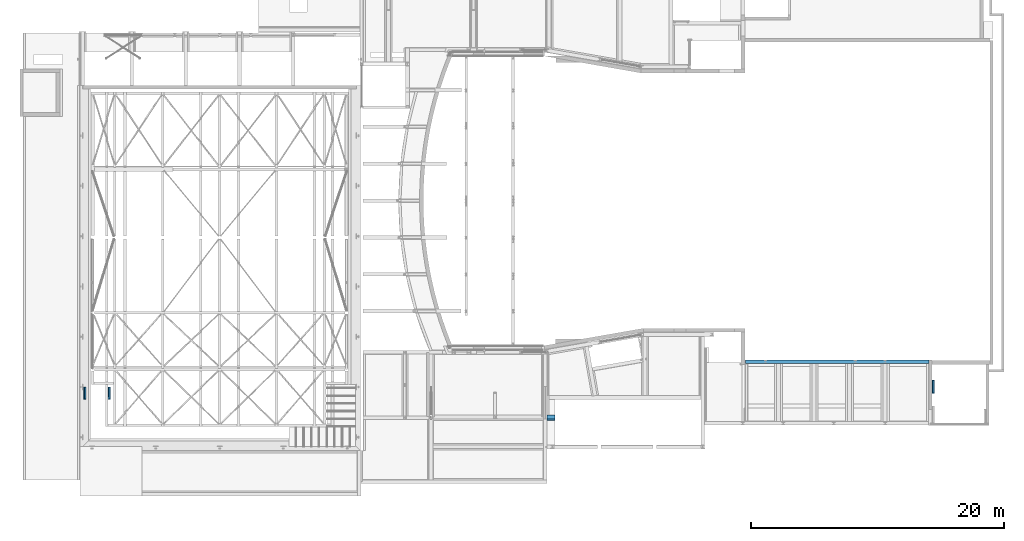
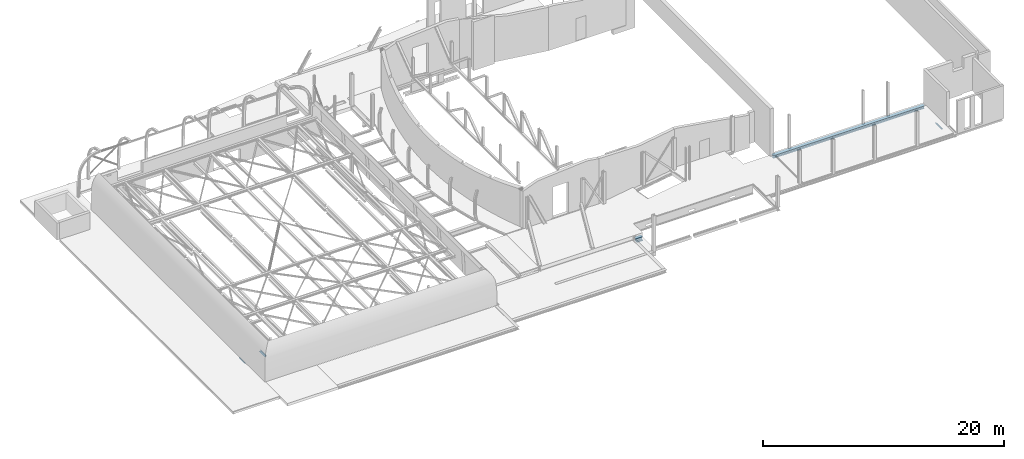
# One storey, part 27 of 38: 5 beams.
"""IFC2X3 building model written with IfcOpenShell, lengths in millimetres."""

from ifc_helpers import new_model, entity, si_unit, converted_unit, derived_unit, direction, frame, frame_2d, origin, place, context, subcontext, project, spatial, polyline, circle_curve, parameter, trimmed, segment, composite_curve, rectangle, outline, extrude, source, transform, mapped, material, material_list, type_object, type_shapes, element, save


model = new_model("IFC2X3")

# Units and contexts
model_context = context("Model", 3, precision=0.01, world=origin(), true_north=direction((6.12303176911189e-17, 1.0)))
body_context = subcontext(model_context, "Body", "Model", "MODEL_VIEW")
ifc_project = project(units=[si_unit("LENGTHUNIT", "METRE", prefix="MILLI"), si_unit("AREAUNIT", "SQUARE_METRE", prefix="MILLI"), si_unit("VOLUMEUNIT", "CUBIC_METRE"), converted_unit("PLANEANGLEUNIT", "DEGREE", entity("IfcRatioMeasure", 0.0174532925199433), si_unit("PLANEANGLEUNIT", "RADIAN"), dimensions=[0, 0, 0, 0, 0, 0, 0]), si_unit("MASSUNIT", "GRAM", prefix="KILO"), derived_unit("MASSDENSITYUNIT", [(si_unit("MASSUNIT", "GRAM", prefix="KILO"), 1), (si_unit("LENGTHUNIT", "METRE"), -3)]), derived_unit("MOMENTOFINERTIAUNIT", [(si_unit("LENGTHUNIT", "METRE"), 4)]), si_unit("TIMEUNIT", "SECOND"), si_unit("FREQUENCYUNIT", "HERTZ"), si_unit("THERMODYNAMICTEMPERATUREUNIT", "DEGREE_CELSIUS"), derived_unit("THERMALTRANSMITTANCEUNIT", [(si_unit("MASSUNIT", "GRAM", prefix="KILO"), 1), (si_unit("THERMODYNAMICTEMPERATUREUNIT", "KELVIN"), -1), (si_unit("TIMEUNIT", "SECOND"), -3)]), derived_unit("VOLUMETRICFLOWRATEUNIT", [(si_unit("LENGTHUNIT", "METRE"), 3), (si_unit("TIMEUNIT", "SECOND"), -1)]), si_unit("ELECTRICCURRENTUNIT", "AMPERE"), si_unit("ELECTRICVOLTAGEUNIT", "VOLT"), si_unit("POWERUNIT", "WATT"), si_unit("FORCEUNIT", "NEWTON", prefix="KILO"), si_unit("ILLUMINANCEUNIT", "LUX"), si_unit("LUMINOUSFLUXUNIT", "LUMEN"), si_unit("LUMINOUSINTENSITYUNIT", "CANDELA"), derived_unit("USERDEFINED", [(si_unit("MASSUNIT", "GRAM", prefix="KILO"), -1), (si_unit("LENGTHUNIT", "METRE"), -2), (si_unit("TIMEUNIT", "SECOND"), 3), (si_unit("LUMINOUSFLUXUNIT", "LUMEN"), 1)]), derived_unit("LINEARVELOCITYUNIT", [(si_unit("LENGTHUNIT", "METRE"), 1), (si_unit("TIMEUNIT", "SECOND"), -1)]), si_unit("PRESSUREUNIT", "PASCAL"), derived_unit("USERDEFINED", [(si_unit("LENGTHUNIT", "METRE"), -2), (si_unit("MASSUNIT", "GRAM", prefix="KILO"), 1), (si_unit("TIMEUNIT", "SECOND"), -2)]), derived_unit("LINEARFORCEUNIT", [(si_unit("MASSUNIT", "GRAM", prefix="KILO"), 1), (si_unit("LENGTHUNIT", "METRE"), 1), (si_unit("TIMEUNIT", "SECOND"), -2), (si_unit("LENGTHUNIT", "METRE"), -1)]), derived_unit("PLANARFORCEUNIT", [(si_unit("MASSUNIT", "GRAM", prefix="KILO"), 1), (si_unit("LENGTHUNIT", "METRE"), 1), (si_unit("TIMEUNIT", "SECOND"), -2), (si_unit("LENGTHUNIT", "METRE"), -2)])], contexts=[model_context])

# Site, building, storey
site_placement = place(None, origin())
site = spatial("IfcSite", under=ifc_project, at=site_placement, Name="Theater aan de Parade", CompositionType="ELEMENT")
building_placement = place(site_placement, origin())
building = spatial("IfcBuilding", under=site, at=building_placement, Name="Theater aan de Parade", CompositionType="ELEMENT")
storey_placement = place(building_placement, frame((0.0, 0.0, 12480.0)))
storey = spatial("IfcBuildingStorey", under=building, at=storey_placement, Name="03 derde verdieping", CompositionType="ELEMENT", Elevation=12480.0)

# Beams
ifc_material_1 = material(Name="00_PBT_MAT_staal_S355")
beam_type_1 = type_object("IfcBeamType", Name="28_PBT_SF_staal_H-profiel (void):S355_HE300B", PredefinedType="NOTDEFINED")
beam_1_placement = place(storey_placement, frame((82375.0084217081, 19700.0, 0.0), z_axis=(0.0, 0.0, 1.0), x_axis=(-1.0, 0.0, 0.0)))
element("IfcBeam", 1, at=beam_1_placement, inside=storey, type_object=beam_type_1, material=ifc_material_1, Name="28_PBT_SF_staal_H-profiel (void):S355_HE300B", ObjectType="28_PBT_SF_staal_H-profiel (void):S355_HE300B", context=body_context, shape_type="SweptSolid", body=[
    extrude(outline(composite_curve([segment(polyline([(131.0, -150.0), (150.0, -150.0)]), True, "CONTINUOUS"), segment(polyline([(150.0, -150.0), (150.0, 150.0)]), True, "CONTINUOUS"), segment(polyline([(150.0, 150.0), (131.0, 150.0)]), True, "CONTINUOUS"), segment(polyline([(131.0, 150.0), (131.0, 32.5000000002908)]), True, "CONTINUOUS"), segment(trimmed(circle_curve(frame_2d((104.0, 32.5000000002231), x_axis=(1.0, 0.0)), 26.9999999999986), [parameter(269.999999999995)], [parameter(0.0)], True, "PARAMETER"), False, "CONTINUOUS"), segment(polyline([(104.0, 5.50000000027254), (-104.0, 5.4999999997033)]), True, "CONTINUOUS"), segment(trimmed(circle_curve(frame_2d((-104.0, 32.4999999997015), x_axis=(0.0, -1.0)), 26.9999999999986), [parameter(269.999999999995)], [parameter(0.0)], True, "PARAMETER"), False, "CONTINUOUS"), segment(polyline([(-131.0, 32.4999999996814), (-131.0, 150.0)]), True, "CONTINUOUS"), segment(polyline([(-131.0, 150.0), (-150.0, 150.0)]), True, "CONTINUOUS"), segment(polyline([(-150.0, 150.0), (-150.0, -150.0)]), True, "CONTINUOUS"), segment(polyline([(-150.0, -150.0), (-131.0, -150.0)]), True, "CONTINUOUS"), segment(polyline([(-131.0, -150.0), (-131.0, -32.5000000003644)]), True, "CONTINUOUS"), segment(trimmed(circle_curve(frame_2d((-104.0, -32.5000000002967), x_axis=(-1.0, 0.0)), 26.9999999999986), [parameter(269.999999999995)], [parameter(0.0)], True, "PARAMETER"), False, "CONTINUOUS"), segment(polyline([(-104.0, -5.50000000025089), (104.0, -5.49999999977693)]), True, "CONTINUOUS"), segment(trimmed(circle_curve(frame_2d((104.0, -32.4999999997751), x_axis=(0.0, 1.0)), 26.9999999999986), [parameter(269.999999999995)], [parameter(0.0)], True, "PARAMETER"), False, "CONTINUOUS"), segment(polyline([(131.0, -32.4999999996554), (131.0, -150.0)]), True, "CONTINUOUS")], self_intersect=False)), frame((137.700000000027, 0.0, -150.0), z_axis=(1.0, 0.0, 0.0), x_axis=(0.0, 0.0, -1.0)), (0.0, 0.0, 1.0), 14518.3523207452),
])
beam_type_2 = type_object("IfcBeamType", Name="28_PBT_SF_staal_L-profiel:S355_L150x150x15", PredefinedType="NOTDEFINED")
beam_2_placement = place(storey_placement, frame((82542.5084217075, 17207.70736957, 0.0), z_axis=(0.0, 0.0, 1.0), x_axis=(0.0, 1.0, 0.0)))
element("IfcBeam", 2, at=beam_2_placement, inside=storey, type_object=beam_type_2, material=ifc_material_1, Name="28_PBT_SF_staal_L-profiel:S355_L150x150x15", ObjectType="28_PBT_SF_staal_L-profiel:S355_L150x150x15", context=body_context, shape_type="SweptSolid", body=[
    extrude(outline(composite_curve([segment(polyline([(49.6666666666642, -93.3333333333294), (56.6666666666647, -93.3333333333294)]), True, "CONTINUOUS"), segment(polyline([(56.6666666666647, -93.3333333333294), (56.6666666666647, 56.6666666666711)]), True, "CONTINUOUS"), segment(polyline([(56.6666666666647, 56.6666666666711), (-93.3333333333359, 56.6666666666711)]), True, "CONTINUOUS"), segment(polyline([(-93.3333333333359, 56.6666666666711), (-93.3333333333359, 49.6666666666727)]), True, "CONTINUOUS"), segment(trimmed(circle_curve(frame_2d((-85.3333333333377, 49.6666666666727), x_axis=(-1.0, 0.0)), 7.99999999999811), [parameter(0.0)], [parameter(90.0000000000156)], True, "PARAMETER"), True, "CONTINUOUS"), segment(polyline([(-85.3333333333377, 41.6666666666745), (25.6666666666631, 41.6666666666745)]), True, "CONTINUOUS"), segment(trimmed(circle_curve(frame_2d((25.6666666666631, 25.6666666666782), x_axis=(0.0, 1.0)), 15.9999999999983), [parameter(270.0)], [parameter(0.0)], True, "PARAMETER"), False, "CONTINUOUS"), segment(polyline([(41.6666666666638, 25.6666666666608), (41.6666666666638, -85.3333333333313)]), True, "CONTINUOUS"), segment(trimmed(circle_curve(frame_2d((49.666666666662, -85.3333333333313), x_axis=(-1.0, 0.0)), 7.99999999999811), [parameter(0.0)], [parameter(90.0000000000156)], True, "PARAMETER"), True, "CONTINUOUS")], self_intersect=False)), frame((0.0, -14.1666666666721, -1043.33333333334), z_axis=(1.0, 0.0, 0.0), x_axis=(0.0, 0.0, -1.0)), (0.0, 0.0, 1.0), 1010.73756213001),
])
beam_type_3 = type_object("IfcBeamType", Name="28_PBT_SF_staal_L-profiel:S355_L150x150x15 + opgelaste doken", PredefinedType="NOTDEFINED")
beam_3_placement = place(storey_placement, frame((17411.3570025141, 16738.806619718, 0.0), z_axis=(0.0, 0.0, 1.0), x_axis=(0.0, 1.0, 0.0)))
element("IfcBeam", 3, at=beam_3_placement, inside=storey, type_object=beam_type_3, material=ifc_material_1, Name="28_PBT_SF_staal_L-profiel:S355_L150x150x15 + opgelaste doken", ObjectType="28_PBT_SF_staal_L-profiel:S355_L150x150x15 + opgelaste doken", context=body_context, shape_type="SweptSolid", body=[
    extrude(outline(composite_curve([segment(polyline([(-93.3333333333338, -56.6666666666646), (56.6666666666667, -56.6666666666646)]), True, "CONTINUOUS"), segment(polyline([(56.6666666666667, -56.6666666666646), (56.6666666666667, 93.3333333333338)]), True, "CONTINUOUS"), segment(polyline([(56.6666666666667, 93.3333333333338), (49.6666666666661, 93.3333333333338)]), True, "CONTINUOUS"), segment(trimmed(circle_curve(frame_2d((49.6666666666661, 85.3333333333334), x_axis=(0.0, 1.0)), 8.00000000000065), [parameter(0.0)], [parameter(90.0000000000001)], True, "PARAMETER"), True, "CONTINUOUS"), segment(polyline([(41.6666666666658, 85.3333333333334), (41.6666666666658, -25.6666666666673)]), True, "CONTINUOUS"), segment(trimmed(circle_curve(frame_2d((25.6666666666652, -25.6666666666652), x_axis=(1.0, 0.0)), 16.0), [parameter(270.0)], [parameter(0.0)], True, "PARAMETER"), False, "CONTINUOUS"), segment(polyline([(25.6666666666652, -41.6666666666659), (-85.3333333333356, -41.6666666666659)]), True, "CONTINUOUS"), segment(trimmed(circle_curve(frame_2d((-85.3333333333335, -49.6666666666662), x_axis=(0.0, 1.0)), 8.00000000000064), [parameter(0.0)], [parameter(90.0000000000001)], True, "PARAMETER"), True, "CONTINUOUS"), segment(polyline([(-93.3333333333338, -49.6666666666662), (-93.3333333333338, -56.6666666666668)]), True, "CONTINUOUS")], self_intersect=False)), frame((0.0, 14.1666666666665, -1003.33333333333), z_axis=(1.0, 0.0, 0.0), x_axis=(0.0, 0.0, -1.0)), (0.0, 0.0, 1.0), 938.220781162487),
])
beam_4_placement = place(storey_placement, frame((15396.3570025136, 16738.806619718, 0.0), z_axis=(0.0, 0.0, 1.0), x_axis=(0.0, 1.0, 0.0)))
element("IfcBeam", 4, at=beam_4_placement, inside=storey, type_object=beam_type_3, material=ifc_material_1, Name="28_PBT_SF_staal_L-profiel:S355_L150x150x15 + opgelaste doken", ObjectType="28_PBT_SF_staal_L-profiel:S355_L150x150x15 + opgelaste doken", context=body_context, shape_type="SweptSolid", body=[
    extrude(outline(composite_curve([segment(polyline([(49.6666666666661, -93.3333333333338), (56.6666666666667, -93.3333333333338)]), True, "CONTINUOUS"), segment(polyline([(56.6666666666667, -93.3333333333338), (56.6666666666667, 56.6666666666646)]), True, "CONTINUOUS"), segment(polyline([(56.6666666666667, 56.6666666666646), (-93.3333333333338, 56.6666666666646)]), True, "CONTINUOUS"), segment(polyline([(-93.3333333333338, 56.6666666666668), (-93.3333333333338, 49.6666666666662)]), True, "CONTINUOUS"), segment(trimmed(circle_curve(frame_2d((-85.3333333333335, 49.6666666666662), x_axis=(-1.0, 0.0)), 8.00000000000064), [parameter(0.0)], [parameter(90.0000000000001)], True, "PARAMETER"), True, "CONTINUOUS"), segment(polyline([(-85.3333333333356, 41.6666666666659), (25.6666666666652, 41.6666666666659)]), True, "CONTINUOUS"), segment(trimmed(circle_curve(frame_2d((25.6666666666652, 25.6666666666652), x_axis=(0.0, 1.0)), 16.0), [parameter(270.0)], [parameter(0.0)], True, "PARAMETER"), False, "CONTINUOUS"), segment(polyline([(41.6666666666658, 25.6666666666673), (41.6666666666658, -85.3333333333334)]), True, "CONTINUOUS"), segment(trimmed(circle_curve(frame_2d((49.6666666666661, -85.3333333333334), x_axis=(-1.0, 0.0)), 8.00000000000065), [parameter(0.0)], [parameter(90.0000000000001)], True, "PARAMETER"), True, "CONTINUOUS")], self_intersect=False)), frame((0.0, -14.1666666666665, -1003.33333333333), z_axis=(1.0, 0.0, 0.0), x_axis=(0.0, 0.0, -1.0)), (0.0, 0.0, 1.0), 938.220781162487),
])
ifc_material_2 = material(Name="00_PBT_MAT_Lucht")
ifc_material_list = material_list([ifc_material_2, ifc_material_1])
beam_type_4 = type_object("IfcBeamType", Name="28_PBT_SF_staal_H-profiel_met_ondergelaste_strip (void):S355_HE320B + ondergelaste strip", PredefinedType="BEAM", material=ifc_material_list)
shared_shape = source(origin(), body_context, "Body", "SweptSolid", [
    extrude(outline(composite_curve([segment(polyline([(139.49999999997, -150.0), (160.0, -150.0)]), True, "CONTINUOUS"), segment(polyline([(160.0, -150.0), (160.0, 150.0)]), True, "CONTINUOUS"), segment(polyline([(160.0, 150.0), (139.500000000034, 150.0)]), True, "CONTINUOUS"), segment(polyline([(139.500000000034, 150.0), (139.500000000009, 32.7499999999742)]), True, "CONTINUOUS"), segment(trimmed(circle_curve(frame_2d((112.500000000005, 32.7499999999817), x_axis=(1.0, 0.0)), 27.0000000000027), [parameter(270.000000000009)], [parameter(0.0)], True, "PARAMETER"), False, "CONTINUOUS"), segment(polyline([(112.500000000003, 5.74999999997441), (-112.499999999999, 5.75000000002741)]), True, "CONTINUOUS"), segment(trimmed(circle_curve(frame_2d((-112.499999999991, 32.7500000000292), x_axis=(0.0, -1.0)), 27.0000000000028), [parameter(270.000000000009)], [parameter(0.0)], True, "PARAMETER"), False, "CONTINUOUS"), segment(polyline([(-139.499999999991, 32.7500000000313), (-139.499999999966, 150.0)]), True, "CONTINUOUS"), segment(polyline([(-139.499999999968, 150.0), (-160.0, 150.0)]), True, "CONTINUOUS"), segment(polyline([(-160.0, 150.0), (-160.0, -150.0)]), True, "CONTINUOUS"), segment(polyline([(-160.0, -150.0), (-139.50000000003, -150.0)]), True, "CONTINUOUS"), segment(polyline([(-139.50000000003, -150.0), (-139.500000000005, -32.7499999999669)]), True, "CONTINUOUS"), segment(trimmed(circle_curve(frame_2d((-112.500000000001, -32.7499999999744), x_axis=(-1.0, 0.0)), 27.0000000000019), [parameter(270.000000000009)], [parameter(0.0)], True, "PARAMETER"), False, "CONTINUOUS"), segment(polyline([(-112.500000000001, -5.74999999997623), (112.500000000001, -5.75000000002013)]), True, "CONTINUOUS"), segment(trimmed(circle_curve(frame_2d((112.499999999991, -32.7500000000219), x_axis=(0.0, 1.0)), 27.0000000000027), [parameter(270.000000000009)], [parameter(0.0)], True, "PARAMETER"), False, "CONTINUOUS"), segment(polyline([(139.499999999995, -32.7500000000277), (139.49999999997, -150.0)]), True, "CONTINUOUS")], self_intersect=False)), frame((52659.1873742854, 15329.4841107, 12035.0), z_axis=(-1.0, 0.0, 0.0), x_axis=(0.0, 0.0, -1.0)), (0.0, 0.0, 1.0), 629.882214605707),
    extrude(rectangle(XDim=9.99999999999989, YDim=420.0, at=frame_2d((-1.08268949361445e-12, 4.33431068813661e-12), x_axis=(1.0, 0.0))), frame((52658.1873742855, 15264.4841107, 11870.0), z_axis=(-1.0, 0.0, 0.0), x_axis=(0.0, 0.0, -1.0)), (0.0, 0.0, 1.0), 627.882214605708),
])
type_shapes(beam_type_4, [shared_shape])
beam_5_placement = place(storey_placement, frame((0.0, 0.0, -12480.0)))
element("IfcBeam", 5, at=beam_5_placement, inside=storey, type_object=beam_type_4, material=ifc_material_1, Name="28_PBT_SF_staal_H-profiel_met_ondergelaste_strip (void):S355_HE320B + ondergelaste strip", ObjectType="28_PBT_SF_staal_H-profiel_met_ondergelaste_strip (void):S355_HE320B + ondergelaste strip", context=body_context, shape_type="MappedRepresentation", body=[
    mapped(shared_shape, transform((0.0, 0.0, 0.0), scale=1.0)),
])

save(model, "model.ifc")
